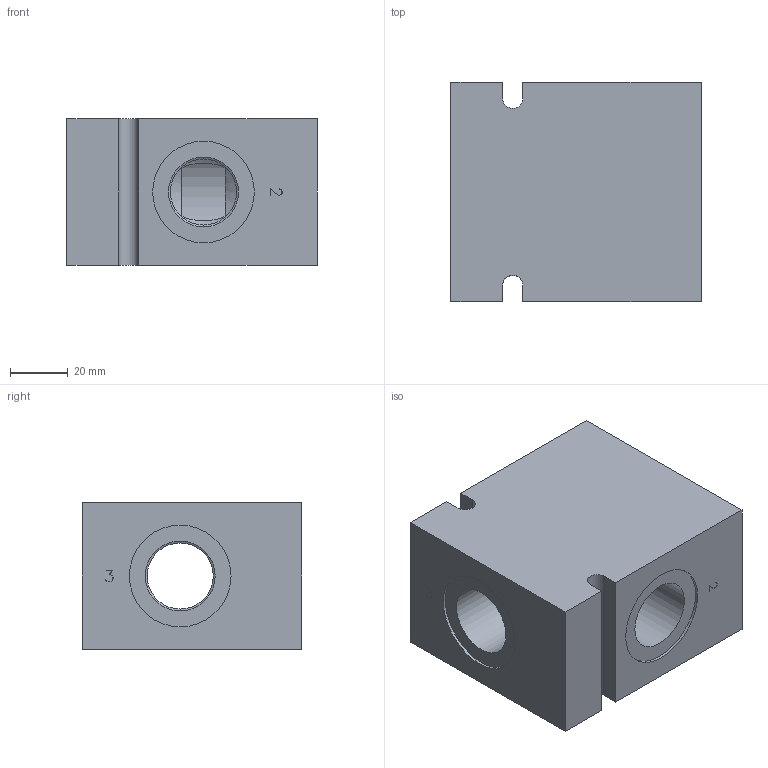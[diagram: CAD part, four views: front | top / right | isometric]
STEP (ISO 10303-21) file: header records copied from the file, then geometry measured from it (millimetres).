
FILE_DESCRIPTION( ( 'Unknown' ), '1' );
FILE_NAME( 'G:/Graphic Design/Graphic Design 2/Data Sheets/Delta Bodies/DRAWINGS/B-DSLD3.stp', 'Unknown', ( 'Unknown' ), ( 'Unknown' ), 'PSStep 16.0.42', 'Unknown', ' ' );
FILE_SCHEMA( ( 'AUTOMOTIVE_DESIGN { 1 0 10303 214 1 1 1 1 }' ) );
Length unit declared in the file: millimetre
Products named in the file (2): Assem1; B-DSLD3
Assembly tree (1 placements, depth 2):
  Assem1
    B-DSLD3
Bounding box: 87 x 76.2 x 50.8 mm (x, y, z)
Surface area: 41227.9 mm2 (no closed solid volume)
Topology: 0 solids, 124 shells, 124 faces, 619 edges, 589 vertices
Faces by surface type: plane 91, cylinder 23, cone 10
Full cylindrical faces by diameter (mm): 6.3 x1, 11.5 x2, 22.22 x1, 23 x2, 24.3 x4, 25.4 x1, 27.051 x1, 28.6 x2, 28.651 x1, 31.806 x2, 35.33 x2, 48.514 x1
Entity records: 6728 total; most frequent: CARTESIAN_POINT 1794, DIRECTION 630, ORIENTED_EDGE 568, EDGE_CURVE 568, VERTEX_POINT 568, B_SPLINE_CURVE_WITH_KNOTS 280, AXIS2_PLACEMENT_3D 216, LINE 198
